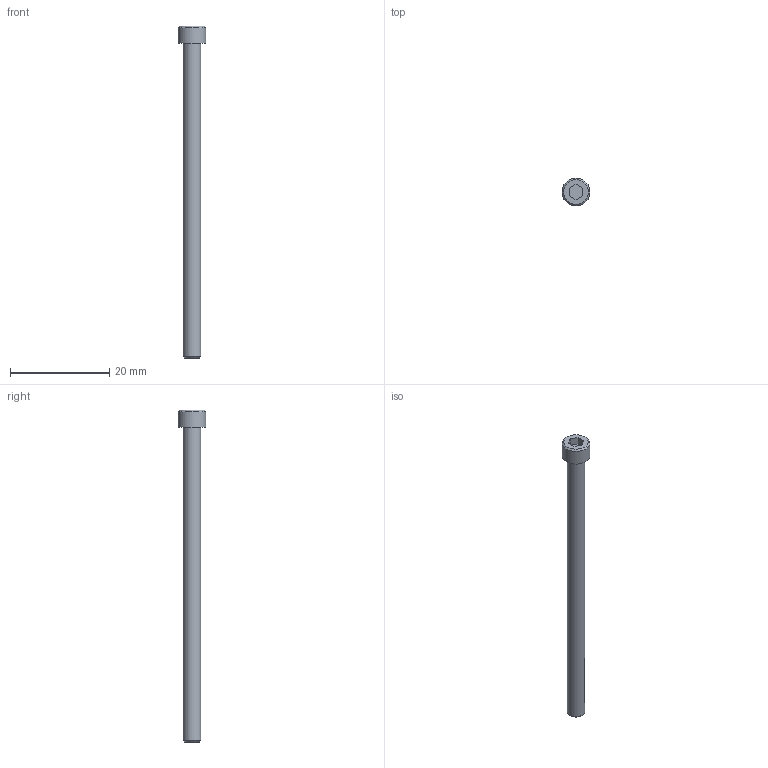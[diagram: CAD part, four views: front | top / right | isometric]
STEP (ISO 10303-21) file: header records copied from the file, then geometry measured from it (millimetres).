
FILE_DESCRIPTION((''),'2;1');
FILE_NAME('C:\Users\Stan\Desktop\import\SHCS 6-32 UNCx2.5.ipt.step','2011-08-18T17:44:51',(''),(''),'Autodesk Inventor 2012','Autodesk Inventor 2012','');
FILE_SCHEMA(('AUTOMOTIVE_DESIGN { 1 0 10303 214 1 1 1 1 }'));
Length unit declared in the file: inch
Products named in the file (1): SHCS 6-32 UNCx2.5
Bounding box: 5.64 x 5.64 x 66.95 mm (x, y, z)
Volume: 686.7 mm3; surface area: 820.1 mm2
Topology: 1 solids, 1 shells, 14 faces, 28 edges, 18 vertices
Faces by surface type: plane 10, cone 2, cylinder 2
Full cylindrical faces by diameter (mm): 3.505 x1, 5.639 x1
Entity records: 391 total; most frequent: DIRECTION 60, CARTESIAN_POINT 57, ORIENTED_EDGE 48, EDGE_CURVE 24, AXIS2_PLACEMENT_3D 21, EDGE_LOOP 20, VERTEX_POINT 18, VECTOR 18
